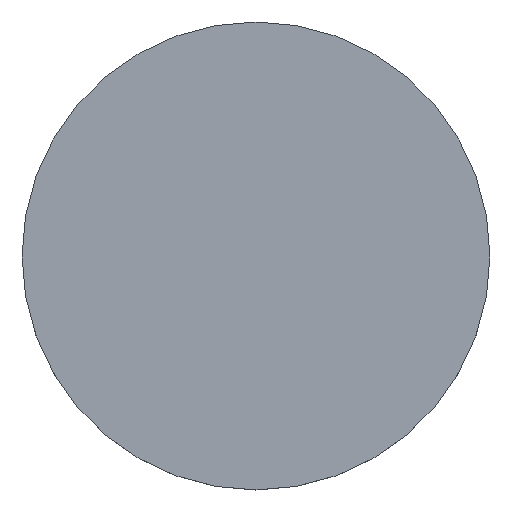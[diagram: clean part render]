
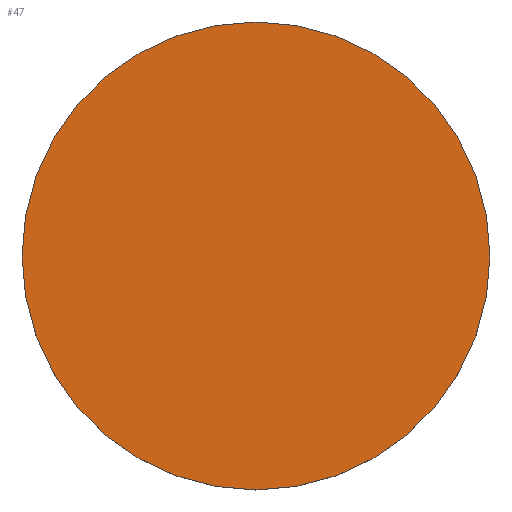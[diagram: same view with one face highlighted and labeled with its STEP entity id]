
A CAD part, top view. The second image highlights one B-rep face of the part: STEP entity #47.
In plain terms, the highlighted planar face has unit normal (0, 0, 1).
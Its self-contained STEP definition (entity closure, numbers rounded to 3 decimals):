
#47=ADVANCED_FACE('',(#51),#49,.T.);
#49=PLANE('',#71);
#51=FACE_OUTER_BOUND('',#55,.T.);
#55=EDGE_LOOP('',(#59));
#59=ORIENTED_EDGE('',*,*,#63,.T.);
#61=VERTEX_POINT('',#89);
#63=EDGE_CURVE('',#61,#61,#65,.T.);
#65=CIRCLE('',#69,22.);
#69=AXIS2_PLACEMENT_3D('',#88,#78,#79);
#71=AXIS2_PLACEMENT_3D('',#91,#82,#83);
#78=DIRECTION('',(0.,0.,1.));
#79=DIRECTION('',(1.,0.,0.));
#82=DIRECTION('',(0.,0.,1.));
#83=DIRECTION('',(1.,0.,0.));
#88=CARTESIAN_POINT('',(0.,0.,2.2));
#89=CARTESIAN_POINT('',(22.,0.,2.2));
#91=CARTESIAN_POINT('',(0.,0.,2.2));
